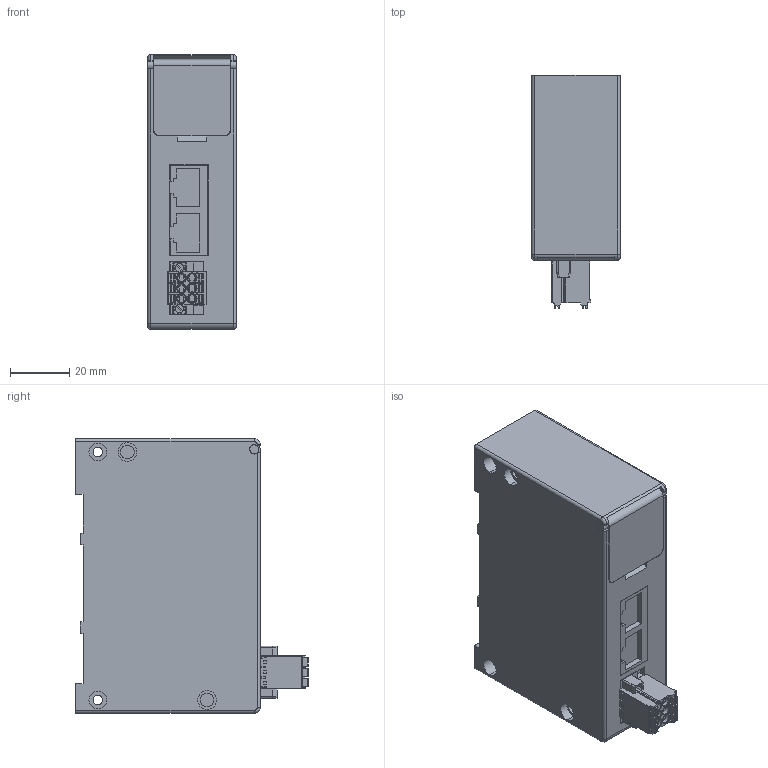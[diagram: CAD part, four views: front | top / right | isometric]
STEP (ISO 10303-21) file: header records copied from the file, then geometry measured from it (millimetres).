
FILE_DESCRIPTION( (''), '2;1');
FILE_NAME ('YS8-K3.stp','2022-12-01T16:51:18',(''),(''),'spGate 12.6.6','','');
FILE_SCHEMA (('AUTOMOTIVE_DESIGN'));
Length unit declared in the file: millimetre
Bounding box: 30 x 78.8 x 93 mm (x, y, z)
Volume: 168184.5 mm3; surface area: 25133.9 mm2
Topology: 1 solids, 1 shells, 600 faces, 1583 edges, 1021 vertices
Faces by surface type: plane 396, cylinder 172, bspline 32
Entity records: 31668 total; most frequent: CARTESIAN_POINT 4201, ORIENTED_EDGE 3166, DIRECTION 2973, COLOUR_RGB 2184, PRESENTATION_STYLE_ASSIGNMENT 2184, STYLED_ITEM 2184, EDGE_CURVE 1583, DRAUGHTING_PRE_DEFINED_CURVE_FONT 1583
